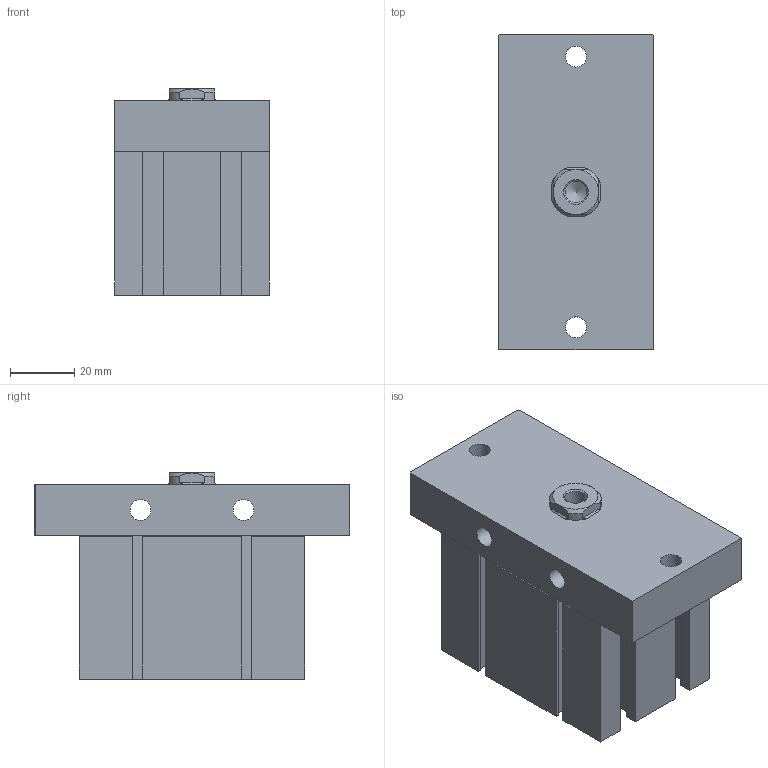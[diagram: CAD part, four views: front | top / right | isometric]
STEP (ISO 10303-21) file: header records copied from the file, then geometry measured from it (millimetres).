
FILE_DESCRIPTION((''),'2;1');
FILE_NAME('J:\3D電子目錄\氣缸\ND\ND\ND40-F\ND40x10-F.stp','2008-03-12T16:38:01',('66-2f-008'),(''),'Autodesk Inventor 11','Autodesk Inventor 11','');
FILE_SCHEMA(('AUTOMOTIVE_DESIGN { 1 0 10303 214 1 1 1 1 }'));
Length unit declared in the file: millimetre
Products named in the file (1): ND40-F
Bounding box: 48 x 98 x 64 mm (x, y, z)
Volume: 199386.6 mm3; surface area: 36166.8 mm2
Topology: 2 solids, 2 shells, 139 faces, 351 edges, 225 vertices
Faces by surface type: plane 99, bspline 16, cone 12, cylinder 11, torus 1
Full cylindrical faces by diameter (mm): 2.2 x2, 6.5 x2, 29 x1, 42 x1, 44.5 x1
Entity records: 4102 total; most frequent: CARTESIAN_POINT 908, ORIENTED_EDGE 634, DIRECTION 618, EDGE_CURVE 317, VECTOR 248, LINE 248, VERTEX_POINT 219, AXIS2_PLACEMENT_3D 185
